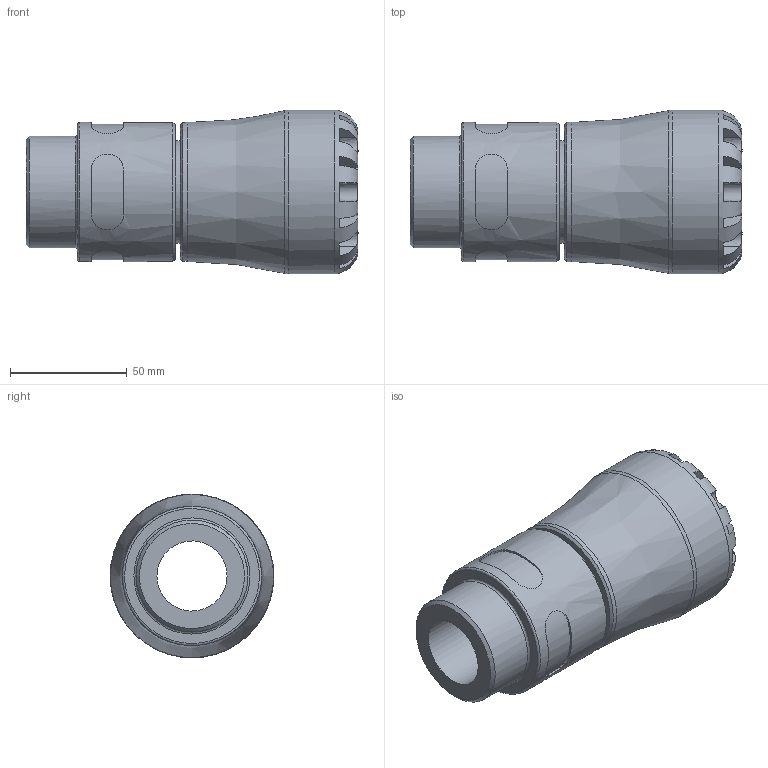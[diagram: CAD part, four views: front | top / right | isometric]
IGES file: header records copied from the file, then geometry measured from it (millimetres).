
Global section: file name: 10N200040015_10N2G0040015; native system: Autodesk Inventor 2019; preprocessor: unknown; author: KIM; date: 20240312.131948; units: millimetre
Bounding box: 142 x 70 x 70 mm (x, y, z)
Volume: 266509.3 mm3; surface area: 51252.1 mm2
Topology: 1 solids, 1 shells, 106 faces, 279 edges, 182 vertices
Faces by surface type: bspline 106
